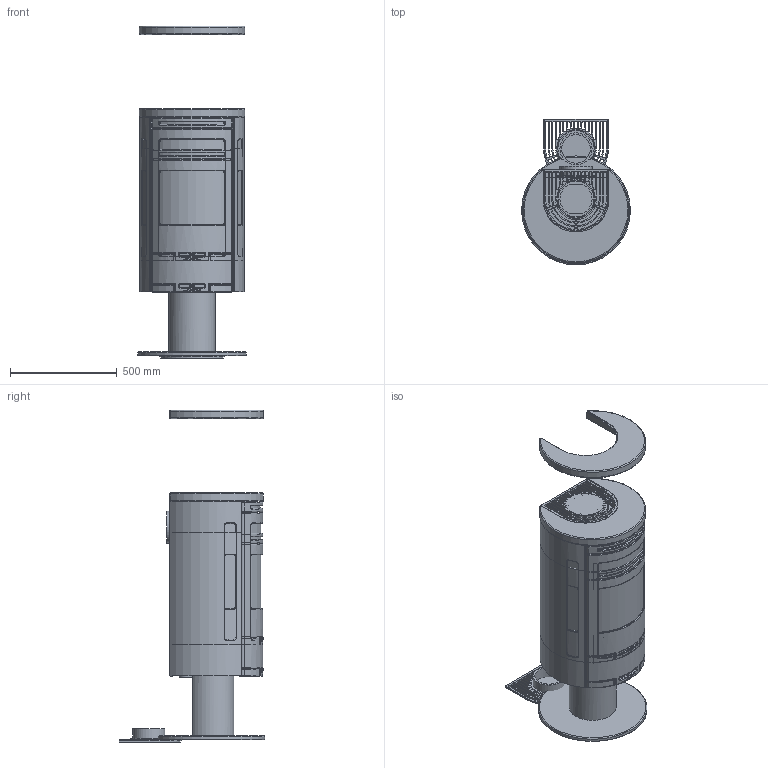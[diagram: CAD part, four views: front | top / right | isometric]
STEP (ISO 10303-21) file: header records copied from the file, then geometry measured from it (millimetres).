
FILE_DESCRIPTION( ( 'Unknown' ), '1' );
FILE_NAME( 'C:/Users/HAnilsd/AppData/Roaming/Unigraphics Solutions/Solid Edge/Insight/insight/insight/interior models/C585 Assambly.stp', 'Unknown', ( 'Unknown' ), ( 'Unknown' ), 'PSStep 13.0', 'Unknown', ' ' );
FILE_SCHEMA( ( 'AUTOMOTIVE_DESIGN { 1 0 10303 214 1 1 1 1 }' ) );
Length unit declared in the file: millimetre
Products named in the file (25): Assem1; Bottom Cast Iron C500; Lattice C500; Inside Shielding C550; Top Soapstone C500; Glass C500; Lid; Connection; Insert C500; Side Glas C500; Sides C580; Rear C585; Foot C585; Door C500; Fire C500; Vermiculite C500
Bounding box: 510 x 682.35 x 1555.15 mm (x, y, z)
Volume: 275144743.9 mm3; surface area: 16803368.9 mm2
Topology: 51 solids, 51 shells, 3249 faces, 8493 edges, 5470 vertices
Faces by surface type: plane 1762, cylinder 761, bspline 280, extrusion 274, torus 120, sphere 40, cone 12
Full cylindrical faces by diameter (mm): 62 x2, 66 x2, 119.2 x2, 134 x3, 150 x3, 170 x3, 178 x4, 180 x2, 202 x2, 212 x2, 510 x2
Entity records: 102190 total; most frequent: CARTESIAN_POINT 51361, ORIENTED_EDGE 8360, DIRECTION 6810, EDGE_CURVE 4180, VERTEX_POINT 2710, VECTOR 2326, AXIS2_PLACEMENT_3D 2242, LINE 2189
